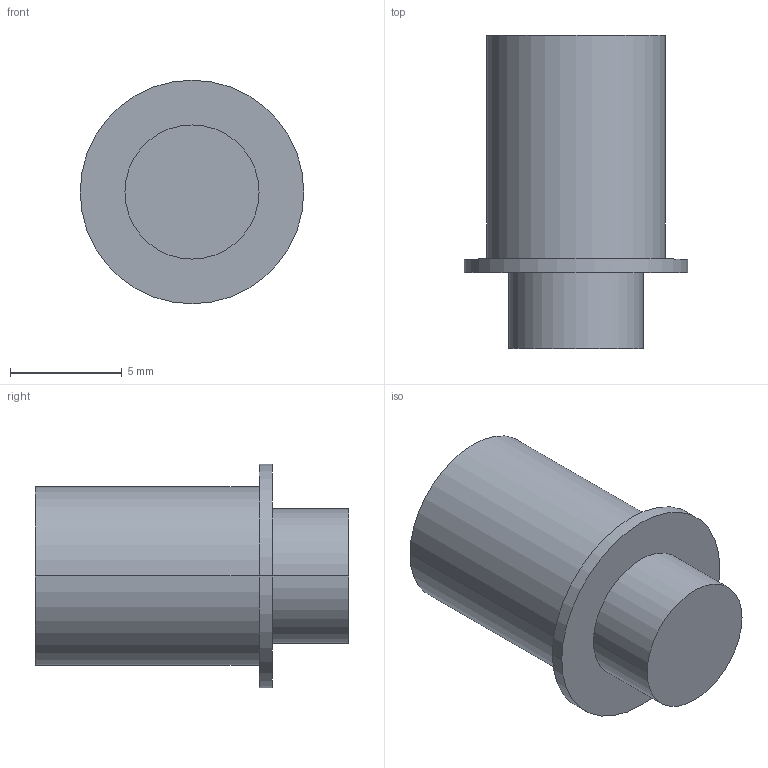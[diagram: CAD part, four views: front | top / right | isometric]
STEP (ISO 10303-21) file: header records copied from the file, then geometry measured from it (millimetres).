
FILE_DESCRIPTION (( 'STEP AP214' ), '1' );
FILE_NAME ('Frontpuffer_D8_gefedert 4,0mm.step', '2010-10-15T08:27:14', ( 'grass' ), ( '' ), 'SwSTEP 2.0', 'SolidWorks 2010', '' );
FILE_SCHEMA (( 'AUTOMOTIVE_DESIGN' ));
Length unit declared in the file: millimetre
Products named in the file (1): Frontpuffer_D8_gefedert 4,0mm
Bounding box: 10 x 14 x 10 mm (x, y, z)
Volume: 645.9 mm3; surface area: 491.3 mm2
Topology: 1 solids, 1 shells, 10 faces, 18 edges, 12 vertices
Faces by surface type: cylinder 6, plane 4
Entity records: 288 total; most frequent: DIRECTION 52, CARTESIAN_POINT 41, ORIENTED_EDGE 36, AXIS2_PLACEMENT_3D 23, EDGE_CURVE 18, EDGE_LOOP 12, CIRCLE 12, VERTEX_POINT 12
